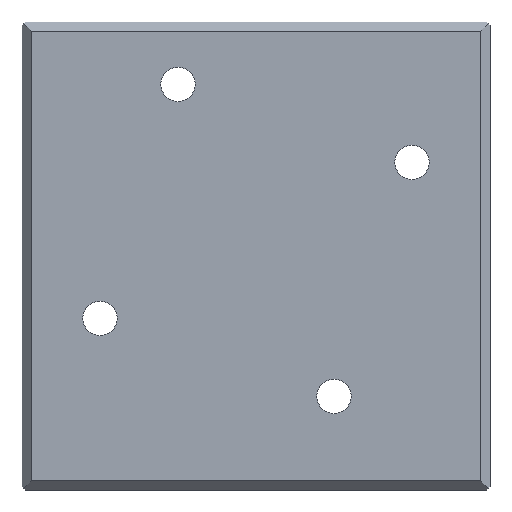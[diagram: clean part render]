
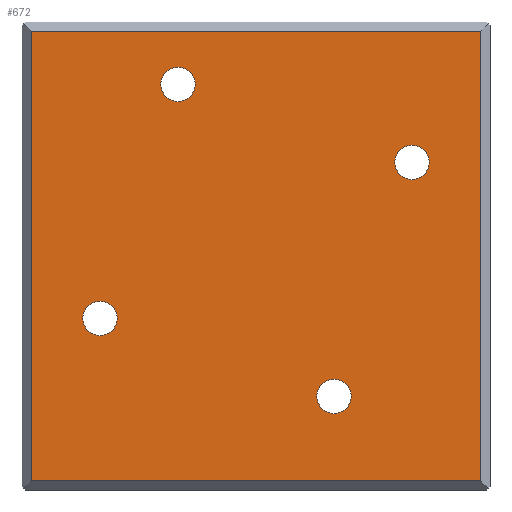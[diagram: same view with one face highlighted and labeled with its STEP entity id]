
A CAD part, front view. The second image highlights one B-rep face of the part: STEP entity #672.
In plain terms, the highlighted planar face has unit normal (0, -1, 0).
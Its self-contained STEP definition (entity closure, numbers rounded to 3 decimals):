
#29=FACE_BOUND('',#125,.T.);
#30=FACE_BOUND('',#126,.T.);
#31=FACE_BOUND('',#127,.T.);
#32=FACE_BOUND('',#128,.T.);
#54=PLANE('',#745);
#85=FACE_OUTER_BOUND('',#124,.T.);
#124=EDGE_LOOP('',(#574,#575,#576,#577));
#125=EDGE_LOOP('',(#578));
#126=EDGE_LOOP('',(#579));
#127=EDGE_LOOP('',(#580));
#128=EDGE_LOOP('',(#581));
#178=LINE('',#1061,#239);
#190=LINE('',#1085,#251);
#194=LINE('',#1091,#255);
#197=LINE('',#1097,#258);
#239=VECTOR('',#871,10.);
#251=VECTOR('',#891,10.);
#255=VECTOR('',#897,10.);
#258=VECTOR('',#906,10.);
#279=CIRCLE('',#746,5.5);
#280=CIRCLE('',#747,5.5);
#281=CIRCLE('',#748,5.5);
#282=CIRCLE('',#749,5.5);
#326=VERTEX_POINT('',#1058);
#327=VERTEX_POINT('',#1060);
#334=VERTEX_POINT('',#1082);
#335=VERTEX_POINT('',#1084);
#337=VERTEX_POINT('',#1100);
#338=VERTEX_POINT('',#1102);
#339=VERTEX_POINT('',#1104);
#340=VERTEX_POINT('',#1106);
#400=EDGE_CURVE('',#326,#327,#178,.T.);
#412=EDGE_CURVE('',#334,#335,#190,.T.);
#416=EDGE_CURVE('',#327,#334,#194,.T.);
#419=EDGE_CURVE('',#335,#326,#197,.T.);
#420=EDGE_CURVE('',#337,#337,#279,.T.);
#421=EDGE_CURVE('',#338,#338,#280,.T.);
#422=EDGE_CURVE('',#339,#339,#281,.T.);
#423=EDGE_CURVE('',#340,#340,#282,.T.);
#574=ORIENTED_EDGE('',*,*,#419,.F.);
#575=ORIENTED_EDGE('',*,*,#412,.F.);
#576=ORIENTED_EDGE('',*,*,#416,.F.);
#577=ORIENTED_EDGE('',*,*,#400,.F.);
#578=ORIENTED_EDGE('',*,*,#420,.T.);
#579=ORIENTED_EDGE('',*,*,#421,.T.);
#580=ORIENTED_EDGE('',*,*,#422,.T.);
#581=ORIENTED_EDGE('',*,*,#423,.T.);
#672=ADVANCED_FACE('',(#85,#29,#30,#31,#32),#54,.F.);
#745=AXIS2_PLACEMENT_3D('',#1099,#909,#910);
#746=AXIS2_PLACEMENT_3D('',#1101,#911,#912);
#747=AXIS2_PLACEMENT_3D('',#1103,#913,#914);
#748=AXIS2_PLACEMENT_3D('',#1105,#915,#916);
#749=AXIS2_PLACEMENT_3D('',#1107,#917,#918);
#871=DIRECTION('',(0.,0.,-1.));
#891=DIRECTION('',(0.,0.,1.));
#897=DIRECTION('',(-1.,0.,0.));
#906=DIRECTION('',(1.,0.,0.));
#909=DIRECTION('center_axis',(0.,1.,0.));
#910=DIRECTION('ref_axis',(0.,0.,1.));
#911=DIRECTION('center_axis',(0.,1.,0.));
#912=DIRECTION('ref_axis',(1.,0.,0.));
#913=DIRECTION('center_axis',(0.,1.,0.));
#914=DIRECTION('ref_axis',(1.,0.,0.));
#915=DIRECTION('center_axis',(0.,1.,0.));
#916=DIRECTION('ref_axis',(1.,0.,0.));
#917=DIRECTION('center_axis',(0.,1.,0.));
#918=DIRECTION('ref_axis',(1.,0.,0.));
#1058=CARTESIAN_POINT('',(147.,0.,147.));
#1060=CARTESIAN_POINT('',(147.,0.,3.));
#1061=CARTESIAN_POINT('',(147.,0.,112.5));
#1082=CARTESIAN_POINT('',(3.,0.,3.));
#1084=CARTESIAN_POINT('',(3.,0.,147.));
#1085=CARTESIAN_POINT('',(3.,0.,37.5));
#1091=CARTESIAN_POINT('',(112.5,0.,3.));
#1097=CARTESIAN_POINT('',(37.5,0.,147.));
#1099=CARTESIAN_POINT('Origin',(75.,0.,75.));
#1100=CARTESIAN_POINT('',(44.5,0.,130.));
#1101=CARTESIAN_POINT('Origin',(50.,0.,130.));
#1102=CARTESIAN_POINT('',(19.5,0.,55.));
#1103=CARTESIAN_POINT('Origin',(25.,0.,55.));
#1104=CARTESIAN_POINT('',(94.5,0.,30.));
#1105=CARTESIAN_POINT('Origin',(100.,0.,30.));
#1106=CARTESIAN_POINT('',(119.5,0.,105.));
#1107=CARTESIAN_POINT('Origin',(125.,0.,105.));
